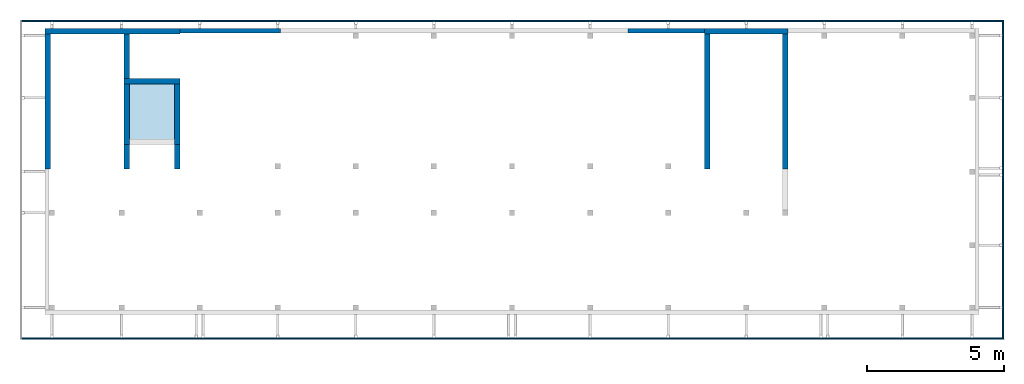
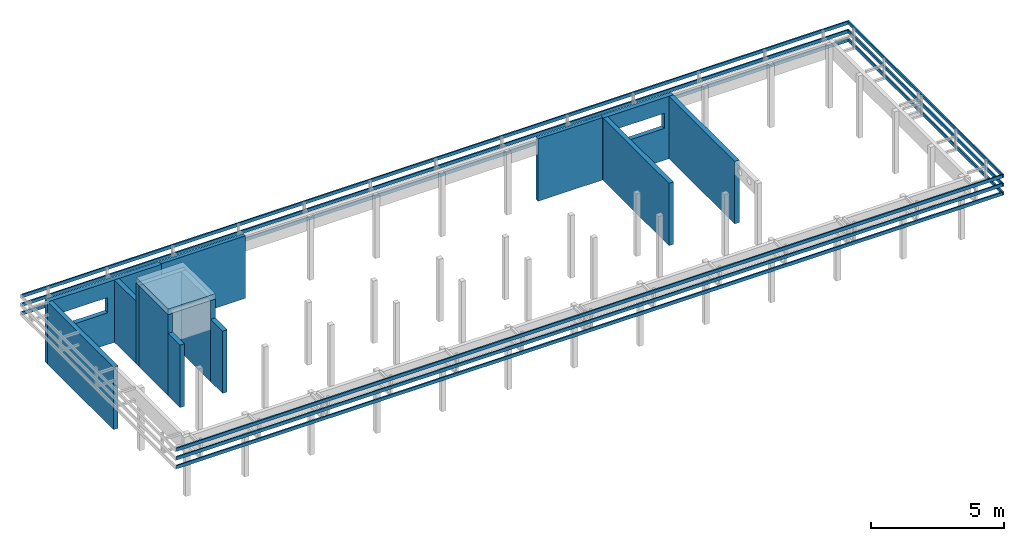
# One storey, part 2 of 42: 13 walls, 9 members, 1 slab, 2 openings.
"""IFC4 building model written with IfcOpenShell, lengths in metres."""

from ifc_helpers import new_model, entity, si_unit, converted_unit, derived_unit, frame, frame_2d, origin, origin_with_axes, place, context, subcontext, project, spatial, polyline, rectangle, outline, extrude, faceted_brep, material, element, save


model = new_model("IFC4")

# Units and contexts
model_context = context("Model", 3, precision=1e-05, world=origin())
plan_context = context("Plan", 2, precision=1e-05, world=origin())
body_context = subcontext(model_context, "Body", "Model", "MODEL_VIEW")
ifc_project = project(units=[si_unit("LENGTHUNIT", "METRE"), si_unit("AREAUNIT", "SQUARE_METRE"), si_unit("VOLUMEUNIT", "CUBIC_METRE"), si_unit("MASSUNIT", "GRAM", prefix="KILO"), converted_unit("PLANEANGLEUNIT", "DEGREE", entity("IfcPlaneAngleMeasure", 0.0174532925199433), si_unit("PLANEANGLEUNIT", "RADIAN"), dimensions=[0, 0, 0, 0, 0, 0, 0]), derived_unit("THERMALTRANSMITTANCEUNIT", [(si_unit("POWERUNIT", "WATT"), 1), (si_unit("THERMODYNAMICTEMPERATUREUNIT", "KELVIN"), -1), (si_unit("LENGTHUNIT", "METRE"), -2)]), derived_unit("VOLUMETRICFLOWRATEUNIT", [(si_unit("LENGTHUNIT", "METRE"), 3), (converted_unit("TIMEUNIT", "hour", entity("IfcTimeMeasure", 3600.0), si_unit("TIMEUNIT", "SECOND"), dimensions=[0, 0, 1, 0, 0, 0, 0]), -1), (si_unit("LENGTHUNIT", "METRE"), -1)])], contexts=[model_context, plan_context])

# Site, building, storey
site_placement = place(None, origin())
site = spatial("IfcSite", under=ifc_project, at=site_placement, Name="Site", CompositionType="ELEMENT")
building_placement = place(site_placement, origin())
building = spatial("IfcBuilding", under=site, at=building_placement, Name="Admin", CompositionType="ELEMENT")
storey_placement = place(building_placement, frame((0.0, 0.0, 6.61)))
storey = spatial("IfcBuildingStorey", under=building, at=storey_placement, Name="02-Etage2", CompositionType="ELEMENT", Elevation=6.61)

# Members
ifc_material_1 = material(Name="C24")
member_1_placement = place(storey_placement, frame((23.1498005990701, 22.5994493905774, 2.68)))
element("IfcMember", 1, at=member_1_placement, inside=storey, material=ifc_material_1, Name="Bandeau R+2", context=body_context, shape_type="Brep", body=[
    faceted_brep([(35.9199990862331, 0.0, 0.0), (0.0, 0.0, 0.0), (0.0, 0.0, 0.15), (35.9199990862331, 0.0, 0.15), (0.0, 0.06, 0.0), (0.0, 0.06, 0.15), (35.9199990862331, 0.06, 0.0), (35.9199990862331, 0.06, 0.15)], [[[0, 1, 2, 3]], [[1, 4, 5, 2]], [[4, 6, 7, 5]], [[6, 0, 3, 7]], [[7, 3, 2, 5]], [[0, 6, 4, 1]]], orient=[[False], [False], [False], [False], [False], [False]]),
])
ifc_material_2 = material(Name="C24")
member_2_placement = place(storey_placement, frame((23.1498005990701, 22.5994493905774, 3.08)))
element("IfcMember", 2, at=member_2_placement, inside=storey, material=ifc_material_2, Name="Bandeau R+2", context=body_context, shape_type="Brep", body=[
    faceted_brep([(35.9199990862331, 0.0, 0.0), (0.0, 0.0, 0.0), (0.0, 0.0, 0.15), (35.9199990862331, 0.0, 0.15), (0.0, 0.06, 0.0), (0.0, 0.06, 0.15), (35.9199990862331, 0.06, 0.0), (35.9199990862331, 0.06, 0.15)], [[[0, 1, 2, 3]], [[1, 4, 5, 2]], [[4, 6, 7, 5]], [[6, 0, 3, 7]], [[7, 3, 2, 5]], [[0, 6, 4, 1]]], orient=[[False], [False], [False], [False], [False], [False]]),
])
ifc_material_3 = material(Name="C24")
member_3_placement = place(storey_placement, frame((23.1498005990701, 22.5994493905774, 2.28)))
element("IfcMember", 3, at=member_3_placement, inside=storey, material=ifc_material_3, Name="Bandeau R+2", context=body_context, shape_type="Brep", body=[
    faceted_brep([(35.9199990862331, 0.0, 0.0), (0.0, 0.0, 0.0), (0.0, 0.0, 0.15), (35.9199990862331, 0.0, 0.15), (0.0, 0.06, 0.0), (0.0, 0.06, 0.15), (35.9199990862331, 0.06, 0.0), (35.9199990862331, 0.06, 0.15)], [[[0, 1, 2, 3]], [[1, 4, 5, 2]], [[4, 6, 7, 5]], [[6, 0, 3, 7]], [[7, 3, 2, 5]], [[0, 6, 4, 1]]], orient=[[False], [False], [False], [False], [False], [False]]),
])
ifc_material_4 = material(Name="C24")
member_4_placement = place(storey_placement, frame((23.1498010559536, 10.9594493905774, 3.08)))
element("IfcMember", 4, at=member_4_placement, inside=storey, material=ifc_material_4, Name="Bandeau R+2", context=body_context, shape_type="Brep", body=[
    faceted_brep([(35.9199990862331, 0.0, 0.0), (0.0, 0.0, 0.0), (0.0, 0.0, 0.15), (35.9199990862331, 0.0, 0.15), (0.0, 0.06, 0.0), (0.0, 0.06, 0.15), (35.9199990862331, 0.06, 0.0), (35.9199990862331, 0.06, 0.15)], [[[0, 1, 2, 3]], [[1, 4, 5, 2]], [[4, 6, 7, 5]], [[6, 0, 3, 7]], [[7, 3, 2, 5]], [[0, 6, 4, 1]]], orient=[[False], [False], [False], [False], [False], [False]]),
])
ifc_material_5 = material(Name="C24")
member_5_placement = place(storey_placement, frame((23.1498010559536, 10.9594493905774, 2.28)))
element("IfcMember", 5, at=member_5_placement, inside=storey, material=ifc_material_5, Name="Bandeau R+2", context=body_context, shape_type="Brep", body=[
    faceted_brep([(35.9199990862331, 0.0, 0.0), (0.0, 0.0, 0.0), (0.0, 0.0, 0.15), (35.9199990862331, 0.0, 0.15), (0.0, 0.06, 0.0), (0.0, 0.06, 0.15), (35.9199990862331, 0.06, 0.0), (35.9199990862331, 0.06, 0.15)], [[[0, 1, 2, 3]], [[1, 4, 5, 2]], [[4, 6, 7, 5]], [[6, 0, 3, 7]], [[7, 3, 2, 5]], [[0, 6, 4, 1]]], orient=[[False], [False], [False], [False], [False], [False]]),
])
ifc_material_6 = material(Name="C24")
member_6_placement = place(storey_placement, frame((23.1498010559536, 10.9594493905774, 2.68)))
element("IfcMember", 6, at=member_6_placement, inside=storey, material=ifc_material_6, Name="Bandeau R+2", context=body_context, shape_type="Brep", body=[
    faceted_brep([(35.9199990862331, 0.0, 0.0), (0.0, 0.0, 0.0), (0.0, 0.0, 0.15), (35.9199990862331, 0.0, 0.15), (0.0, 0.06, 0.0), (0.0, 0.06, 0.15), (35.9199990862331, 0.06, 0.0), (35.9199990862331, 0.06, 0.15)], [[[0, 1, 2, 3]], [[1, 4, 5, 2]], [[4, 6, 7, 5]], [[6, 0, 3, 7]], [[7, 3, 2, 5]], [[0, 6, 4, 1]]], orient=[[False], [False], [False], [False], [False], [False]]),
])
ifc_material_7 = material(Name="C24")
member_7_placement = place(storey_placement, frame((59.0697996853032, 10.9594493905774, 2.68)))
element("IfcMember", 7, at=member_7_placement, inside=storey, material=ifc_material_7, Name="Bandeau R+2", context=body_context, shape_type="Brep", body=[
    faceted_brep([(4.56883397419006e-07, 1.81898940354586e-15, 0.0), (0.0, 11.7, 0.0), (0.0, 11.7, 0.15), (4.56883397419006e-07, 1.81898940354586e-15, 0.15), (0.06, 11.7, 0.0), (0.06, 11.7, 0.15), (0.0600004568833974, 1.81898940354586e-15, 0.0), (0.0600004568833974, 1.81898940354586e-15, 0.15)], [[[0, 1, 2, 3]], [[1, 4, 5, 2]], [[4, 6, 7, 5]], [[6, 0, 3, 7]], [[7, 3, 2, 5]], [[0, 6, 4, 1]]], orient=[[False], [False], [False], [False], [False], [False]]),
])
ifc_material_8 = material(Name="C24")
member_8_placement = place(storey_placement, frame((59.0697996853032, 10.9594493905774, 3.08)))
element("IfcMember", 8, at=member_8_placement, inside=storey, material=ifc_material_8, Name="Bandeau R+2", context=body_context, shape_type="Brep", body=[
    faceted_brep([(4.56883397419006e-07, 1.81898940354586e-15, 0.0), (0.0, 11.7, 0.0), (0.0, 11.7, 0.15), (4.56883397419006e-07, 1.81898940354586e-15, 0.15), (0.06, 11.7, 0.0), (0.06, 11.7, 0.15), (0.0600004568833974, 1.81898940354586e-15, 0.0), (0.0600004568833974, 1.81898940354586e-15, 0.15)], [[[0, 1, 2, 3]], [[1, 4, 5, 2]], [[4, 6, 7, 5]], [[6, 0, 3, 7]], [[7, 3, 2, 5]], [[0, 6, 4, 1]]], orient=[[False], [False], [False], [False], [False], [False]]),
])
ifc_material_9 = material(Name="C24")
member_9_placement = place(storey_placement, frame((59.0697996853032, 10.9594493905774, 2.28)))
element("IfcMember", 9, at=member_9_placement, inside=storey, material=ifc_material_9, Name="Bandeau R+2", context=body_context, shape_type="Brep", body=[
    faceted_brep([(4.56883397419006e-07, 1.81898940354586e-15, 0.0), (0.0, 11.7, 0.0), (0.0, 11.7, 0.15), (4.56883397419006e-07, 1.81898940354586e-15, 0.15), (0.06, 11.7, 0.0), (0.06, 11.7, 0.15), (0.0600004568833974, 1.81898940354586e-15, 0.0), (0.0600004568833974, 1.81898940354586e-15, 0.15)], [[[0, 1, 2, 3]], [[1, 4, 5, 2]], [[4, 6, 7, 5]], [[6, 0, 3, 7]], [[7, 3, 2, 5]], [[0, 6, 4, 1]]], orient=[[False], [False], [False], [False], [False], [False]]),
])

# Slab
ifc_material_10 = material(Name="C30/37")
slab_placement = place(storey_placement, frame((26.8998290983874, 18.0994421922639, 3.73)))
element("IfcSlab", 10, at=slab_placement, inside=storey, material=ifc_material_10, Name="Dalle BA", PredefinedType="FLOOR", context=body_context, shape_type="SweptSolid", body=[
    extrude(rectangle(XDim=2.41, YDim=2.05000000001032, at=frame_2d((-1.02500000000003, 1.20500324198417), x_axis=(0.0, 1.0))), frame((2.05000000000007, 0.0, 0.0), z_axis=(0.0, 0.0, 1.0), x_axis=(1.0, 0.0, 0.0)), (0.0, 0.0, 1.0), 0.25),
])

# Walls
ifc_material_11 = material(Name="CLT")
wall_1_placement = place(storey_placement, frame((48.15980059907, 22.349449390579, 0.0), z_axis=(0.0, 0.0, 1.0), x_axis=(-1.0, 0.0, 0.0)))
element("IfcWall", 11, at=wall_1_placement, inside=storey, material=ifc_material_11, Name="Panneau CLT R+2", context=body_context, shape_type="SweptSolid", body=[
    extrude(rectangle(XDim=2.80999999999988, YDim=0.16, at=frame_2d((1.40499999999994, 0.08), x_axis=(1.0, 0.0))), origin_with_axes(), (0.0, 0.0, 1.0), 2.87),
])
ifc_material_12 = material(Name="CLT")
wall_2_placement = place(storey_placement, frame((32.6298001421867, 22.349449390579, 0.0), z_axis=(0.0, 0.0, 1.0), x_axis=(-1.0, 0.0, 0.0)))
element("IfcWall", 12, at=wall_2_placement, inside=storey, material=ifc_material_12, Name="Panneau CLT R+2", context=body_context, shape_type="SweptSolid", body=[
    extrude(rectangle(XDim=3.67997058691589, YDim=0.16, at=frame_2d((1.83998529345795, 0.08), x_axis=(1.0, 0.0))), origin_with_axes(), (0.0, 0.0, 1.0), 2.87),
])
ifc_material_13 = material(Name="C30/37")
wall_3_placement = place(storey_placement, frame((28.7498295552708, 20.3094421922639, 0.0), z_axis=(0.0, 0.0, 1.0), x_axis=(0.0, -1.0, 0.0)))
element("IfcWall", 13, at=wall_3_placement, inside=storey, material=ifc_material_13, Name="Voile BA Asc. R+2", context=body_context, shape_type="SweptSolid", body=[
    extrude(rectangle(XDim=2.21, YDim=0.2, at=frame_2d((1.105, 0.1), x_axis=(1.0, 0.0))), origin_with_axes(), (0.0, 0.0, 1.0), 3.73),
])
ifc_material_14 = material(Name="C30/37")
wall_4_placement = place(storey_placement, frame((28.9498295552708, 17.1994421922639, 0.0), z_axis=(0.0, 0.0, 1.0), x_axis=(0.0, 1.0, 0.0)))
element("IfcWall", 14, at=wall_4_placement, inside=storey, material=ifc_material_14, Name="Voile BA Asc. R+2", context=body_context, shape_type="SweptSolid", body=[
    extrude(rectangle(XDim=0.9, YDim=0.200000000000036, at=frame_2d((0.45, 0.100000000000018), x_axis=(1.0, 0.0))), origin_with_axes(), (0.0, 0.0, 1.0), 2.87),
])
ifc_material_15 = material(Name="C30/37")
wall_5_placement = place(storey_placement, frame((26.8998295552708, 20.3094486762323, 0.0), z_axis=(0.0, 0.0, 1.0), x_axis=(0.0, -1.0, 0.0)))
element("IfcWall", 15, at=wall_5_placement, inside=storey, material=ifc_material_15, Name="Voile BA Asc. R+2", context=body_context, shape_type="SweptSolid", body=[
    extrude(rectangle(XDim=2.21, YDim=0.2, at=frame_2d((1.105, 0.1), x_axis=(1.0, 0.0))), origin_with_axes(), (0.0, 0.0, 1.0), 3.73),
])
ifc_material_16 = material(Name="C30/37")
wall_6_placement = place(storey_placement, frame((26.8998295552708, 18.0994486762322, 0.0), z_axis=(0.0, 0.0, 1.0), x_axis=(3.63797880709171e-14, -1.0, 0.0)))
element("IfcWall", 16, at=wall_6_placement, inside=storey, material=ifc_material_16, Name="Voile BA Asc. R+2", context=body_context, shape_type="SweptSolid", body=[
    extrude(rectangle(XDim=0.9, YDim=0.200000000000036, at=frame_2d((0.45, 0.100000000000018), x_axis=(1.0, 0.0))), origin_with_axes(), (0.0, 0.0, 1.0), 2.87),
])
ifc_material_17 = material(Name="C30/37")
wall_7_placement = place(storey_placement, frame((28.9498295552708, 20.5094421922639, 0.0), z_axis=(0.0, 0.0, 1.0), x_axis=(-0.999999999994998, 3.16291138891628e-06, 0.0)))
element("IfcWall", 17, at=wall_7_placement, inside=storey, material=ifc_material_17, Name="Voile BA Asc. R+2", context=body_context, shape_type="SweptSolid", body=[
    extrude(outline(polyline([(-2.04999936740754, -0.200006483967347), (6.32602786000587e-07, -0.200006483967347), (2.05082173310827e-11, -6.48396834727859e-06), (-0.19999999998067, -6.42772582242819e-06), (-2.04999999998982, -6.48396834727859e-06), (-2.04999936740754, -0.200006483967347)])), frame((2.04999936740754, 0.200006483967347, 0.0), z_axis=(0.0, 0.0, 1.0), x_axis=(1.0, 0.0, 0.0)), (0.0, 0.0, 1.0), 3.73),
])
ifc_material_18 = material(Name="C30/37")
wall_8_placement = place(storey_placement, frame((23.9998005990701, 22.149449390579, 0.0), z_axis=(0.0, 0.0, 1.0), x_axis=(1.17591234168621e-14, -1.0, 0.0)))
element("IfcWall", 18, at=wall_8_placement, inside=storey, material=ifc_material_18, Name="Voile BA Esc. R+2", context=body_context, shape_type="SweptSolid", body=[
    extrude(rectangle(XDim=4.95, YDim=0.2, at=frame_2d((2.475, 0.1), x_axis=(1.0, 0.0))), origin_with_axes(), (0.0, 0.0, 1.0), 2.87),
])
ifc_material_19 = material(Name="C30/37")
wall_9_placement = place(storey_placement, frame((27.0998295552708, 20.5094486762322, 0.0), z_axis=(0.0, 0.0, 1.0), x_axis=(0.0, 1.0, 0.0)))
element("IfcWall", 19, at=wall_9_placement, inside=storey, material=ifc_material_19, Name="Voile BA Esc. R+2", context=body_context, shape_type="SweptSolid", body=[
    extrude(rectangle(XDim=1.64, YDim=0.2, at=frame_2d((0.82, 0.1), x_axis=(1.0, 0.0))), origin_with_axes(), (0.0, 0.0, 1.0), 2.87),
])
ifc_material_20 = material(Name="C30/37")
wall_10_placement = place(storey_placement, frame((51.21980059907, 17.199449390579, 0.0), z_axis=(0.0, 0.0, 1.0), x_axis=(0.0, 1.0, 0.0)))
element("IfcWall", 20, at=wall_10_placement, inside=storey, material=ifc_material_20, Name="Voile BA Esc. R+2", context=body_context, shape_type="SweptSolid", body=[
    extrude(rectangle(XDim=4.95, YDim=0.2, at=frame_2d((2.475, 0.1), x_axis=(1.0, 0.0))), origin_with_axes(), (0.0, 0.0, 1.0), 2.87),
])
ifc_material_21 = material(Name="C30/37")
wall_11_placement = place(storey_placement, frame((48.15980059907, 22.149449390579, 0.0), z_axis=(0.0, 0.0, 1.0), x_axis=(0.0, -1.0, 0.0)))
element("IfcWall", 21, at=wall_11_placement, inside=storey, material=ifc_material_21, Name="Voile BA Esc. R+2", context=body_context, shape_type="SweptSolid", body=[
    extrude(rectangle(XDim=4.95, YDim=0.200000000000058, at=frame_2d((2.475, 0.100000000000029), x_axis=(1.0, 0.0))), origin_with_axes(), (0.0, 0.0, 1.0), 2.87),
])

# Wall, opening
ifc_material_22 = material(Name="C30/37")
wall_12_placement = place(storey_placement, frame((51.21980059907, 22.349449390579, 0.0), z_axis=(0.0, 0.0, 1.0), x_axis=(-1.0, 0.0, 0.0)))
wall_12 = element("IfcWall", 22, at=wall_12_placement, inside=storey, material=ifc_material_22, Name="Voile BA Esc. R+2", context=body_context, shape_type="SweptSolid", body=[
    extrude(rectangle(XDim=3.06, YDim=0.2, at=frame_2d((1.53, 0.1), x_axis=(1.0, 0.0))), origin_with_axes(), (0.0, 0.0, 1.0), 2.87),
])
opening_1_placement = place(wall_12_placement, frame((2.6, 0.2, 1.46), z_axis=(0.0, -1.0, 0.0), x_axis=(0.0, 0.0, 1.0)))
element("IfcOpeningElement", 23, at=opening_1_placement, cuts=wall_12, Name="Baie de fenêtre", ObjectType="Opening", context=body_context, shape_type="SweptSolid", body=[
    extrude(outline(polyline([(0.0, 2.2), (0.7, 2.2), (0.7, 0.0), (0.0, 0.0), (0.0, 2.2)])), origin_with_axes(), (0.0, 0.0, 1.0), 0.2),
])

ifc_material_23 = material(Name="C30/37")
wall_13_placement = place(storey_placement, frame((28.9498295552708, 22.349449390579, 0.0), z_axis=(0.0, 0.0, 1.0), x_axis=(-1.0, 0.0, 0.0)))
wall_13 = element("IfcWall", 24, at=wall_13_placement, inside=storey, material=ifc_material_23, Name="Voile BA Axe 2.6", context=body_context, shape_type="SweptSolid", body=[
    extrude(rectangle(XDim=4.95002895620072, YDim=0.2, at=frame_2d((2.47501447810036, 0.1), x_axis=(1.0, 0.0))), origin_with_axes(), (0.0, 0.0, 1.0), 2.87),
])
opening_2_placement = place(wall_13_placement, frame((4.55000986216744, 0.2, 1.46), z_axis=(0.0, -1.0, 0.0), x_axis=(0.0, 0.0, 1.0)))
element("IfcOpeningElement", 25, at=opening_2_placement, cuts=wall_13, Name="Baie de fenêtre", ObjectType="Opening", context=body_context, shape_type="SweptSolid", body=[
    extrude(outline(polyline([(0.0, 2.19999999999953), (0.7, 2.19999999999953), (0.7, 0.0), (0.0, 0.0), (0.0, 2.19999999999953)])), origin_with_axes(), (0.0, 0.0, 1.0), 0.2),
])

save(model, "model.ifc")
